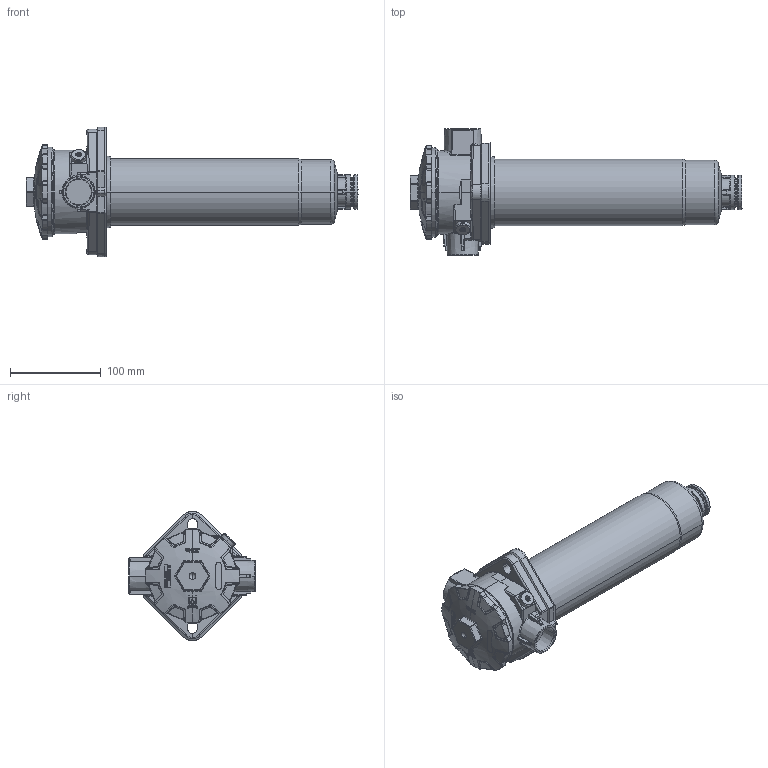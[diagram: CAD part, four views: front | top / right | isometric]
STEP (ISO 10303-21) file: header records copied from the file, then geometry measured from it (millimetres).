
FILE_DESCRIPTION((''),'2;1');
FILE_NAME('E_103-686','2024-09-02T14:19:40',('a.heinl'),(''),'CREO PARAMETRIC BY PTC INC, 2023254','CREO PARAMETRIC BY PTC INC, 2023254','');
FILE_SCHEMA(('AUTOMOTIVE_DESIGN { 1 0 10303 214 1 1 1 1 }'));
Length unit declared in the file: millimetre
Products named in the file (1): E_103-686
Bounding box: 364.95 x 139 x 142.55 mm (x, y, z)
Volume: 1667046.3 mm3; surface area: 136680.7 mm2
Topology: 1 solids, 3 shells, 1444 faces, 3722 edges, 2271 vertices
Faces by surface type: plane 509, cylinder 328, bspline 303, torus 111, cone 103, sphere 55, extrusion 35
Entity records: 86200 total; most frequent: CARTESIAN_POINT 29598, ORIENTED_EDGE 7338, DIRECTION 5997, PRESENTATION_STYLE_ASSIGNMENT 5149, STYLED_ITEM 3705, CURVE_STYLE 3704, EDGE_CURVE 3669, AXIS2_PLACEMENT_3D 2407
